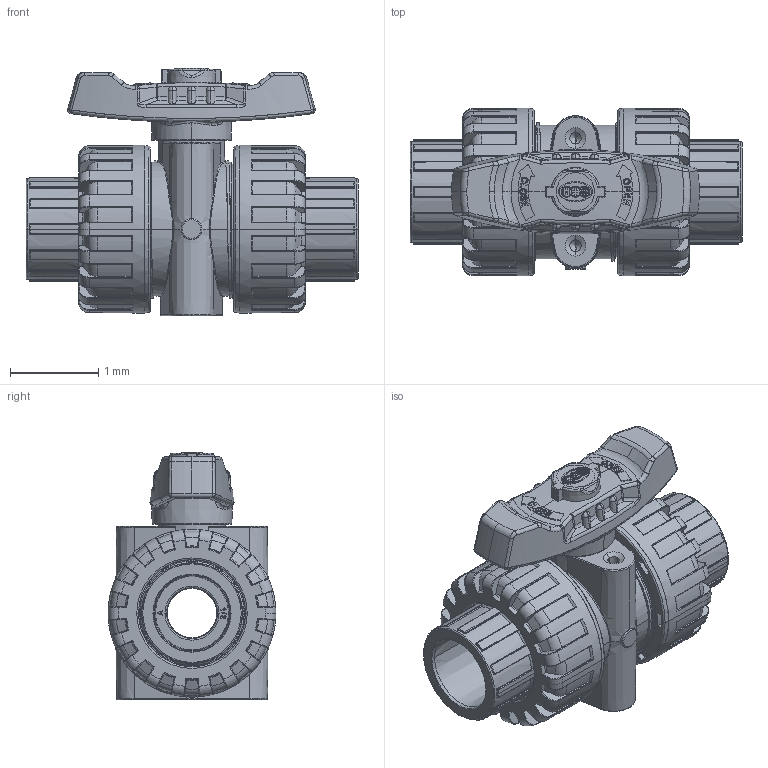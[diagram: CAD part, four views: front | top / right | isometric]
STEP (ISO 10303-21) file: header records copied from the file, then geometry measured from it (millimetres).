
FILE_DESCRIPTION(('Open CASCADE Model'),'2;1');
FILE_NAME('Open CASCADE Shape Model','2022-07-14T13:23:59',('Author'),( 'Open CASCADE'),'Open CASCADE STEP processor 7.3','Open CASCADE 7.3' ,'Unknown');
FILE_SCHEMA(('AUTOMOTIVE_DESIGN { 1 0 10303 214 1 1 1 1 }'));
Length unit declared in the file: millimetre
Products named in the file (19): Open CASCADE STEP translator 7.3 1; Open CASCADE STEP translator 7.3 1.1; Open CASCADE STEP translator 7.3 1.2; Open CASCADE STEP translator 7.3 1.3; Open CASCADE STEP translator 7.3 1.4; Open CASCADE STEP translator 7.3 1.5; Open CASCADE STEP translator 7.3 1.6; Open CASCADE STEP translator 7.3 1.7; Open CASCADE STEP translator 7.3 1.8; Open CASCADE STEP translator 7.3 1.9; Open CASCADE STEP translator 7.3 1.10; Open CASCADE STEP translator 7.3 1.11; Open CASCADE STEP translator 7.3 1.12; Open CASCADE STEP translator 7.3 1.13; Open CASCADE STEP translator 7.3 1.14; Open CASCADE STEP translator 7.3 1.15; Open CASCADE STEP translator 7.3 1.16; Open CASCADE STEP translator 7.3 1.17; Open CASCADE STEP translator 7.3 1.18
Assembly tree (18 placements, depth 2):
  Open CASCADE STEP translator 7.3 1
    Open CASCADE STEP translator 7.3 1.1
    Open CASCADE STEP translator 7.3 1.2
    Open CASCADE STEP translator 7.3 1.3
    Open CASCADE STEP translator 7.3 1.4
    Open CASCADE STEP translator 7.3 1.5
    Open CASCADE STEP translator 7.3 1.6
    Open CASCADE STEP translator 7.3 1.7
    Open CASCADE STEP translator 7.3 1.8
    Open CASCADE STEP translator 7.3 1.9
    Open CASCADE STEP translator 7.3 1.10
    Open CASCADE STEP translator 7.3 1.11
    Open CASCADE STEP translator 7.3 1.12
    Open CASCADE STEP translator 7.3 1.13
    Open CASCADE STEP translator 7.3 1.14
    Open CASCADE STEP translator 7.3 1.15
    Open CASCADE STEP translator 7.3 1.16
    Open CASCADE STEP translator 7.3 1.17
    Open CASCADE STEP translator 7.3 1.18
Bounding box: 3.77 x 1.91 x 2.81 mm (x, y, z)
Volume: 6.9 mm3; surface area: 107.3 mm2
Topology: 18 solids, 18 shells, 2590 faces, 6591 edges, 4037 vertices
Faces by surface type: bspline 660, plane 640, cone 388, torus 383, cylinder 377, sphere 136, revolution 6
Entity records: 307025 total; most frequent: CARTESIAN_POINT 193233, DIRECTION 16349, ORIENTED_EDGE 12950, PCURVE 12950, DEFINITIONAL_REPRESENTATION 12950, B_SPLINE_CURVE_WITH_KNOTS 8783, LINE 6941, VECTOR 6941
